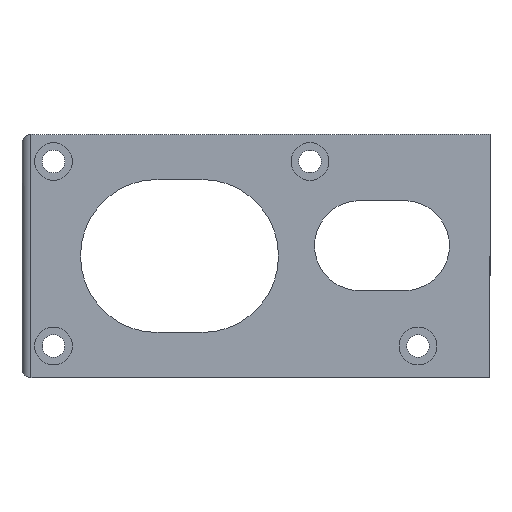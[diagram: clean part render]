
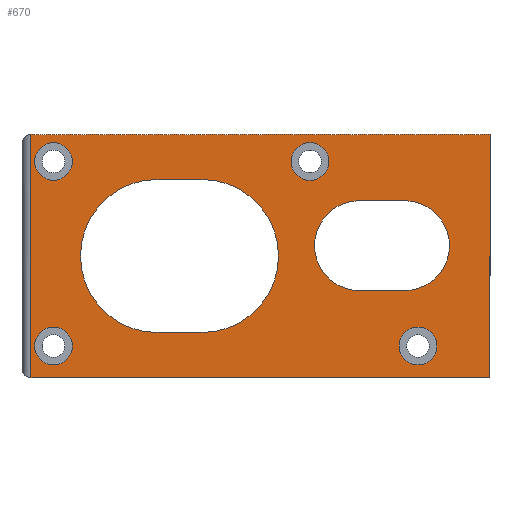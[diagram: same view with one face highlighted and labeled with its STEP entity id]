
A CAD part, left-side view. The second image highlights one B-rep face of the part: STEP entity #670.
In plain terms, the highlighted planar face has unit normal (-1, 0, 0).
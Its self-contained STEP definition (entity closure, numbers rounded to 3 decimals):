
#21=FACE_BOUND('',#144,.T.);
#22=FACE_BOUND('',#145,.T.);
#23=FACE_BOUND('',#146,.T.);
#24=FACE_BOUND('',#147,.T.);
#25=FACE_BOUND('',#148,.T.);
#26=FACE_BOUND('',#149,.T.);
#41=PLANE('',#741);
#71=CIRCLE('',#742,5.);
#72=CIRCLE('',#743,5.);
#73=CIRCLE('',#744,8.5);
#74=CIRCLE('',#745,8.5);
#75=CIRCLE('',#746,2.1);
#76=CIRCLE('',#747,2.1);
#77=CIRCLE('',#748,2.1);
#78=CIRCLE('',#749,2.1);
#97=FACE_OUTER_BOUND('',#143,.T.);
#143=EDGE_LOOP('',(#515,#516,#517,#518));
#144=EDGE_LOOP('',(#519,#520,#521,#522));
#145=EDGE_LOOP('',(#523,#524,#525,#526));
#146=EDGE_LOOP('',(#527));
#147=EDGE_LOOP('',(#528));
#148=EDGE_LOOP('',(#529));
#149=EDGE_LOOP('',(#530));
#199=LINE('',#1009,#257);
#226=LINE('',#1082,#284);
#228=LINE('',#1086,#286);
#229=LINE('',#1087,#287);
#230=LINE('',#1092,#288);
#231=LINE('',#1095,#289);
#232=LINE('',#1100,#290);
#233=LINE('',#1103,#291);
#257=VECTOR('',#804,10.);
#284=VECTOR('',#859,10.);
#286=VECTOR('',#863,10.);
#287=VECTOR('',#864,10.);
#288=VECTOR('',#867,10.);
#289=VECTOR('',#870,10.);
#290=VECTOR('',#873,10.);
#291=VECTOR('',#876,10.);
#316=VERTEX_POINT('',#1006);
#317=VERTEX_POINT('',#1008);
#349=VERTEX_POINT('',#1081);
#350=VERTEX_POINT('',#1085);
#351=VERTEX_POINT('',#1088);
#352=VERTEX_POINT('',#1089);
#353=VERTEX_POINT('',#1091);
#354=VERTEX_POINT('',#1093);
#355=VERTEX_POINT('',#1096);
#356=VERTEX_POINT('',#1097);
#357=VERTEX_POINT('',#1099);
#358=VERTEX_POINT('',#1101);
#359=VERTEX_POINT('',#1104);
#360=VERTEX_POINT('',#1106);
#361=VERTEX_POINT('',#1108);
#362=VERTEX_POINT('',#1110);
#380=EDGE_CURVE('',#316,#317,#199,.T.);
#417=EDGE_CURVE('',#317,#349,#226,.T.);
#419=EDGE_CURVE('',#350,#316,#228,.T.);
#420=EDGE_CURVE('',#349,#350,#229,.T.);
#421=EDGE_CURVE('',#351,#352,#71,.T.);
#422=EDGE_CURVE('',#352,#353,#230,.T.);
#423=EDGE_CURVE('',#353,#354,#72,.T.);
#424=EDGE_CURVE('',#354,#351,#231,.T.);
#425=EDGE_CURVE('',#355,#356,#73,.T.);
#426=EDGE_CURVE('',#356,#357,#232,.T.);
#427=EDGE_CURVE('',#357,#358,#74,.T.);
#428=EDGE_CURVE('',#358,#355,#233,.T.);
#429=EDGE_CURVE('',#359,#359,#75,.T.);
#430=EDGE_CURVE('',#360,#360,#76,.T.);
#431=EDGE_CURVE('',#361,#361,#77,.T.);
#432=EDGE_CURVE('',#362,#362,#78,.T.);
#515=ORIENTED_EDGE('',*,*,#380,.F.);
#516=ORIENTED_EDGE('',*,*,#419,.F.);
#517=ORIENTED_EDGE('',*,*,#420,.F.);
#518=ORIENTED_EDGE('',*,*,#417,.F.);
#519=ORIENTED_EDGE('',*,*,#421,.T.);
#520=ORIENTED_EDGE('',*,*,#422,.T.);
#521=ORIENTED_EDGE('',*,*,#423,.T.);
#522=ORIENTED_EDGE('',*,*,#424,.T.);
#523=ORIENTED_EDGE('',*,*,#425,.T.);
#524=ORIENTED_EDGE('',*,*,#426,.T.);
#525=ORIENTED_EDGE('',*,*,#427,.T.);
#526=ORIENTED_EDGE('',*,*,#428,.T.);
#527=ORIENTED_EDGE('',*,*,#429,.T.);
#528=ORIENTED_EDGE('',*,*,#430,.T.);
#529=ORIENTED_EDGE('',*,*,#431,.T.);
#530=ORIENTED_EDGE('',*,*,#432,.T.);
#670=ADVANCED_FACE('',(#97,#21,#22,#23,#24,#25,#26),#41,.F.);
#741=AXIS2_PLACEMENT_3D('',#1084,#861,#862);
#742=AXIS2_PLACEMENT_3D('',#1090,#865,#866);
#743=AXIS2_PLACEMENT_3D('',#1094,#868,#869);
#744=AXIS2_PLACEMENT_3D('',#1098,#871,#872);
#745=AXIS2_PLACEMENT_3D('',#1102,#874,#875);
#746=AXIS2_PLACEMENT_3D('',#1105,#877,#878);
#747=AXIS2_PLACEMENT_3D('',#1107,#879,#880);
#748=AXIS2_PLACEMENT_3D('',#1109,#881,#882);
#749=AXIS2_PLACEMENT_3D('',#1111,#883,#884);
#804=DIRECTION('',(0.,0.,1.));
#859=DIRECTION('',(0.,-1.,0.));
#861=DIRECTION('center_axis',(1.,0.,0.));
#862=DIRECTION('ref_axis',(0.,0.,-1.));
#863=DIRECTION('',(0.,1.,0.));
#864=DIRECTION('',(0.,0.,-1.));
#865=DIRECTION('center_axis',(1.,0.,0.));
#866=DIRECTION('ref_axis',(0.,0.,1.));
#867=DIRECTION('',(0.,1.,0.));
#868=DIRECTION('center_axis',(1.,0.,0.));
#869=DIRECTION('ref_axis',(0.,0.,-1.));
#870=DIRECTION('',(0.,-1.,0.));
#871=DIRECTION('center_axis',(1.,0.,0.));
#872=DIRECTION('ref_axis',(0.,0.,1.));
#873=DIRECTION('',(0.,1.,0.));
#874=DIRECTION('center_axis',(1.,0.,0.));
#875=DIRECTION('ref_axis',(0.,0.,-1.));
#876=DIRECTION('',(0.,-1.,0.));
#877=DIRECTION('center_axis',(1.,0.,0.));
#878=DIRECTION('ref_axis',(0.,1.,0.));
#879=DIRECTION('center_axis',(1.,0.,0.));
#880=DIRECTION('ref_axis',(0.,1.,0.));
#881=DIRECTION('center_axis',(1.,0.,0.));
#882=DIRECTION('ref_axis',(0.,1.,0.));
#883=DIRECTION('center_axis',(1.,0.,0.));
#884=DIRECTION('ref_axis',(0.,1.,0.));
#1006=CARTESIAN_POINT('',(0.,51.,0.));
#1008=CARTESIAN_POINT('',(0.,51.,27.));
#1009=CARTESIAN_POINT('',(0.,51.,6.75));
#1081=CARTESIAN_POINT('',(0.,0.,27.));
#1082=CARTESIAN_POINT('',(0.,52.,27.));
#1084=CARTESIAN_POINT('Origin',(0.,26.,13.5));
#1085=CARTESIAN_POINT('',(0.,0.,0.));
#1086=CARTESIAN_POINT('',(0.,0.,0.));
#1087=CARTESIAN_POINT('',(0.,0.,27.));
#1088=CARTESIAN_POINT('',(0.,9.5,19.65));
#1089=CARTESIAN_POINT('',(0.,9.5,9.65));
#1090=CARTESIAN_POINT('Origin',(0.,9.5,14.65));
#1091=CARTESIAN_POINT('',(0.,14.5,9.65));
#1092=CARTESIAN_POINT('',(0.,17.75,9.65));
#1093=CARTESIAN_POINT('',(0.,14.5,19.65));
#1094=CARTESIAN_POINT('Origin',(0.,14.5,14.65));
#1095=CARTESIAN_POINT('',(0.,20.25,19.65));
#1096=CARTESIAN_POINT('',(0.,32.,22.));
#1097=CARTESIAN_POINT('',(0.,32.,5.));
#1098=CARTESIAN_POINT('Origin',(0.,32.,13.5));
#1099=CARTESIAN_POINT('',(0.,37.,5.));
#1100=CARTESIAN_POINT('',(0.,29.,5.));
#1101=CARTESIAN_POINT('',(0.,37.,22.));
#1102=CARTESIAN_POINT('Origin',(0.,37.,13.5));
#1103=CARTESIAN_POINT('',(0.,31.5,22.));
#1104=CARTESIAN_POINT('',(0.,10.1,3.5));
#1105=CARTESIAN_POINT('Origin',(0.,8.,3.5));
#1106=CARTESIAN_POINT('',(0.,50.6,24.));
#1107=CARTESIAN_POINT('Origin',(0.,48.5,24.));
#1108=CARTESIAN_POINT('',(0.,22.1,24.));
#1109=CARTESIAN_POINT('Origin',(0.,20.,24.));
#1110=CARTESIAN_POINT('',(0.,50.6,3.5));
#1111=CARTESIAN_POINT('Origin',(0.,48.5,3.5));
